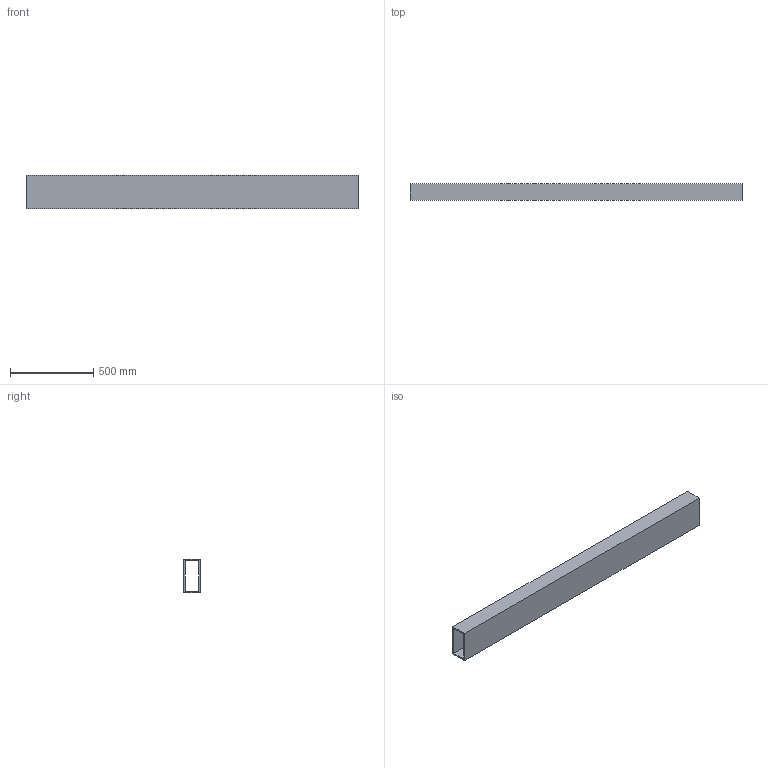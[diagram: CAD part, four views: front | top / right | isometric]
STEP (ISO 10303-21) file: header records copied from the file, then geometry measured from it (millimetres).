
FILE_DESCRIPTION(('Open CASCADE Model'),'2;1');
FILE_NAME('Open CASCADE Shape Model','2026-10-19T10:06:06',('Author'),( 'Open CASCADE'),'Open CASCADE STEP processor 7.8','Open CASCADE 7.8' ,'Unknown');
FILE_SCHEMA(('AUTOMOTIVE_DESIGN { 1 0 10303 214 1 1 1 1 }'));
Length unit declared in the file: millimetre
Products named in the file (1): Open CASCADE STEP translator 7.8 2
Bounding box: 2000 x 100 x 200 mm (x, y, z)
Volume: 9088000 mm3; surface area: 2281088 mm2
Topology: 1 solids, 1 shells, 10 faces, 24 edges, 16 vertices
Faces by surface type: plane 10
Entity records: 598 total; most frequent: CARTESIAN_POINT 115, DIRECTION 78, LINE 56, VECTOR 56, ORIENTED_EDGE 48, PCURVE 48, DEFINITIONAL_REPRESENTATION 48, EDGE_CURVE 24
